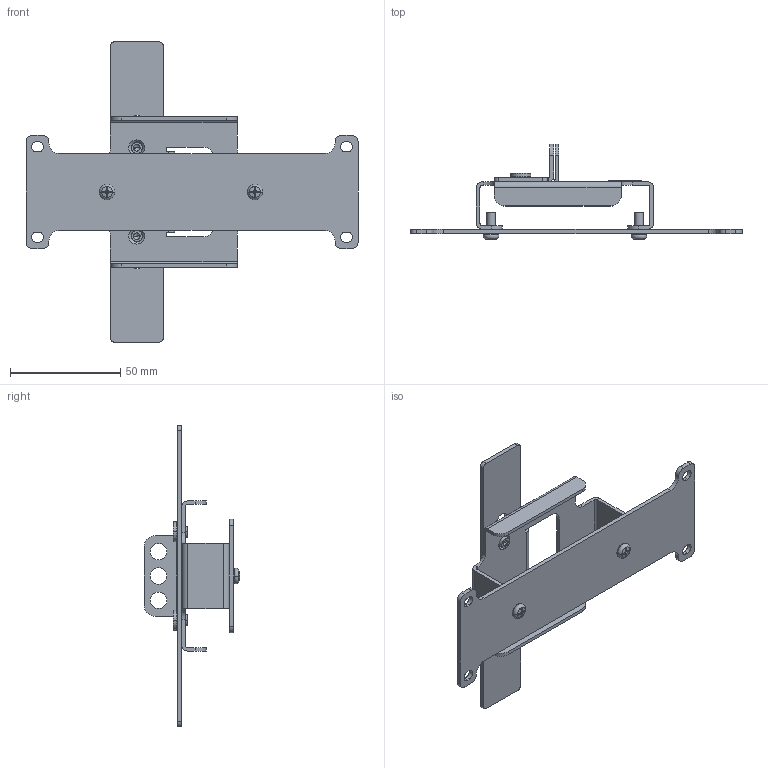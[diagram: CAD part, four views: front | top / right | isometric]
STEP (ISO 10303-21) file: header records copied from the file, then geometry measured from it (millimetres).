
FILE_DESCRIPTION((''),'2;1');
FILE_NAME('U2_3P_INTERLOCK_ASSY_ASM','2018-06-04T',('HHI'),(''),'PRO/ENGINEER BY PARAMETRIC TECHNOLOGY CORPORATION, 2012453','PRO/ENGINEER BY PARAMETRIC TECHNOLOGY CORPORATION, 2012453','');
FILE_SCHEMA(('CONFIG_CONTROL_DESIGN'));
Length unit declared in the file: millimetre
Products named in the file (11): U2_INTERLOCK_ASSY_SKEL_SKEL000; U2_INTERLOCK_FRAME; U1_INTERLOCK_GUIDE; U2_3P_INTERLOCK_BAR; U6_LEVER_PIN; U2_MIF_25GP_3_LABEL; M4_L10_PH_SCREW; D4_ASSY2_SPRING_WASHER; D4_SMALL_PLAIN_WASHER; M4_L10_P_SW_PH_SCREW_ASM; U2_3P_INTERLOCK_ASSY_ASM
Assembly tree (12 placements, depth 3):
  U2_3P_INTERLOCK_ASSY_ASM
    U2_INTERLOCK_ASSY_SKEL_SKEL000
    U2_INTERLOCK_FRAME
    U1_INTERLOCK_GUIDE
    U2_3P_INTERLOCK_BAR
    U6_LEVER_PIN  x2
    U2_MIF_25GP_3_LABEL
    M4_L10_P_SW_PH_SCREW_ASM  x2
      M4_L10_PH_SCREW
      D4_ASSY2_SPRING_WASHER
      D4_SMALL_PLAIN_WASHER
Bounding box: 150.4 x 43.27 x 136 mm (x, y, z)
Volume: 29710.2 mm3; surface area: 36779.4 mm2
Topology: 12 solids, 12 shells, 397 faces, 1038 edges, 682 vertices
Faces by surface type: plane 188, cylinder 136, extrusion 49, torus 12, cone 8, sphere 4
Entity records: 11269 total; most frequent: CARTESIAN_POINT 2615, ORIENTED_EDGE 1770, DIRECTION 1698, EDGE_CURVE 885, VERTEX_POINT 585, AXIS2_PLACEMENT_3D 566, VECTOR 566, LINE 517
